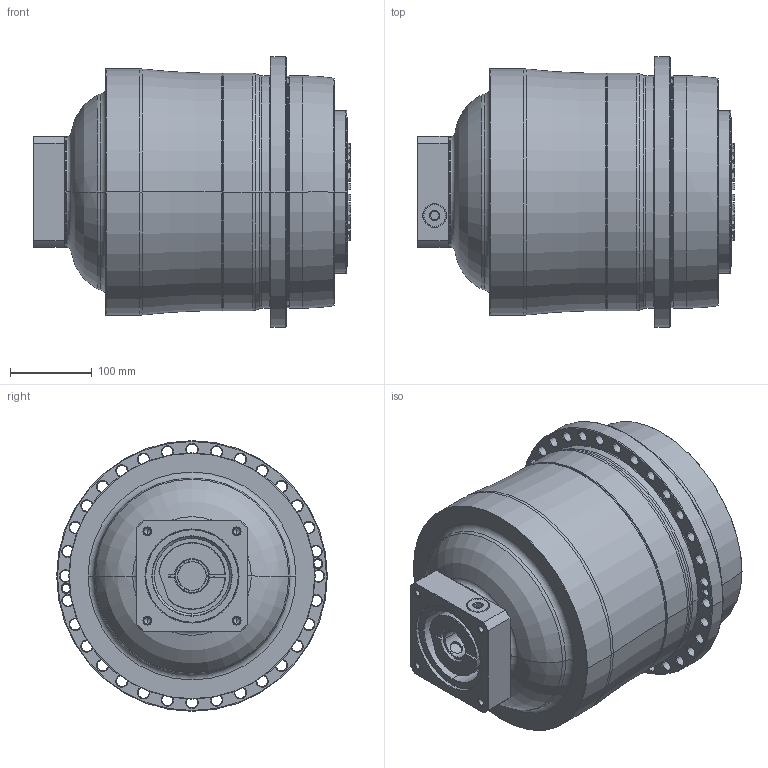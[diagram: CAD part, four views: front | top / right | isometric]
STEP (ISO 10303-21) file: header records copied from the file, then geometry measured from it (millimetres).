
FILE_DESCRIPTION((''),'2;1');
FILE_NAME('APC285_3ST_35-P0409800201_ASM','2018-07-05T',('d01226'),(''),'PRO/ENGINEER BY PARAMETRIC TECHNOLOGY CORPORATION, 2008410','PRO/ENGINEER BY PARAMETRIC TECHNOLOGY CORPORATION, 2008410','');
FILE_SCHEMA(('CONFIG_CONTROL_DESIGN'));
Length unit declared in the file: millimetre
Products named in the file (9): P0278801003; P03598G0103; P1366800101; P0503800012; P0912601001; P1211800001; P0409800201; 21711422019; APC285_3ST_35-P0409800201_ASM
Assembly tree (8 placements, depth 2):
  APC285_3ST_35-P0409800201_ASM
    P0278801003
    P03598G0103
    P1366800101
    P0503800012
    P0912601001
    P1211800001
    P0409800201
    21711422019
Bounding box: 389.6 x 332 x 332 mm (x, y, z)
Volume: 21576969 mm3; surface area: 978663.4 mm2
Topology: 9 solids, 21 shells, 813 faces, 1991 edges, 1217 vertices
Faces by surface type: cone 290, cylinder 230, plane 145, torus 134, bspline 14
Entity records: 29469 total; most frequent: CARTESIAN_POINT 9846, DIRECTION 4387, ORIENTED_EDGE 3896, EDGE_CURVE 1973, AXIS2_PLACEMENT_3D 1925, VERTEX_POINT 1217, CIRCLE 1097, EDGE_LOOP 934
